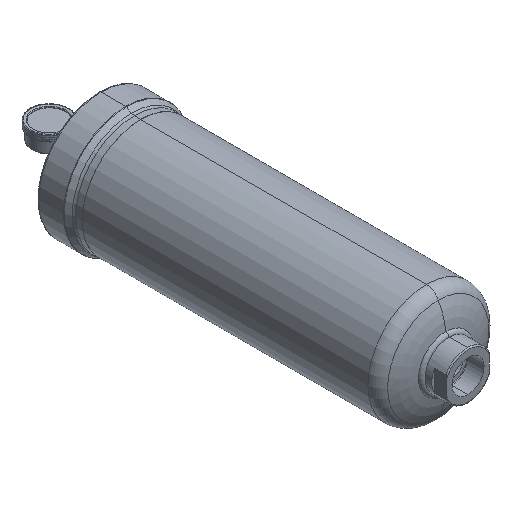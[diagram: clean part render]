
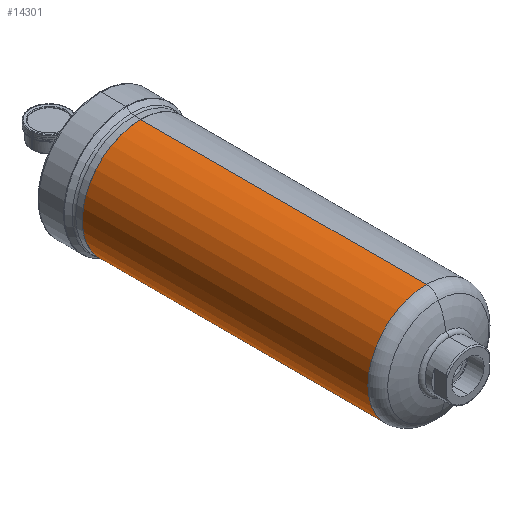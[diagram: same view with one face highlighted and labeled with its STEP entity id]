
A CAD part, isometric view. The second image highlights one B-rep face of the part: STEP entity #14301.
In plain terms, the highlighted cylindrical face has radius 103 mm (diameter 206 mm), a partial arc.
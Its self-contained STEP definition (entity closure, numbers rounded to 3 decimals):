
#279 = EDGE_CURVE ( 'NONE', #6652, #2298, #1398, .T. ) ;
#1146 = EDGE_CURVE ( 'NONE', #4650, #13753, #11363, .T. ) ;
#1398 = LINE ( 'NONE', #14226, #12838 ) ;
#1965 = CIRCLE ( 'NONE', #5887, 103. ) ;
#2197 = CARTESIAN_POINT ( 'NONE',  ( 90.65, -306.785, 355.429 ) ) ;
#2298 = VERTEX_POINT ( 'NONE', #18392 ) ;
#3909 = ORIENTED_EDGE ( 'NONE', *, *, #18421, .F. ) ;
#4228 = ORIENTED_EDGE ( 'NONE', *, *, #1146, .F. ) ;
#4307 = DIRECTION ( 'NONE',  ( 0., -1., 0. ) ) ;
#4650 = VERTEX_POINT ( 'NONE', #14632 ) ;
#5026 = DIRECTION ( 'NONE',  ( 0., -1., 0. ) ) ;
#5887 = AXIS2_PLACEMENT_3D ( 'NONE', #18373, #16624, #8880 ) ;
#6652 = VERTEX_POINT ( 'NONE', #18824 ) ;
#8423 = VECTOR ( 'NONE', #4307, 1000. ) ;
#8455 = CARTESIAN_POINT ( 'NONE',  ( 90.65, 232.715, 355.429 ) ) ;
#8880 = DIRECTION ( 'NONE',  ( 0., 0., -1. ) ) ;
#9731 = DIRECTION ( 'NONE',  ( 0., -1., 0. ) ) ;
#10583 = DIRECTION ( 'NONE',  ( 0., 0., 1. ) ) ;
#11201 = EDGE_LOOP ( 'NONE', ( #4228, #18945, #17883, #3909 ) ) ;
#11363 = LINE ( 'NONE', #21260, #8423 ) ;
#12082 = FACE_OUTER_BOUND ( 'NONE', #11201, .T. ) ;
#12379 = CIRCLE ( 'NONE', #15857, 103. ) ;
#12838 = VECTOR ( 'NONE', #21891, 1000. ) ;
#13753 = VERTEX_POINT ( 'NONE', #24286 ) ;
#14226 = CARTESIAN_POINT ( 'NONE',  ( 90.65, -306.785, 252.429 ) ) ;
#14301 = ADVANCED_FACE ( 'NONE', ( #12082 ), #22821, .T. ) ;
#14632 = CARTESIAN_POINT ( 'NONE',  ( 90.65, 232.715, 458.429 ) ) ;
#15857 = AXIS2_PLACEMENT_3D ( 'NONE', #8455, #5026, #10583 ) ;
#16624 = DIRECTION ( 'NONE',  ( 0., -1., 0. ) ) ;
#17233 = DIRECTION ( 'NONE',  ( 0., 0., -1. ) ) ;
#17883 = ORIENTED_EDGE ( 'NONE', *, *, #279, .T. ) ;
#18373 = CARTESIAN_POINT ( 'NONE',  ( 90.65, -271.825, 355.429 ) ) ;
#18392 = CARTESIAN_POINT ( 'NONE',  ( 90.65, -271.825, 252.429 ) ) ;
#18421 = EDGE_CURVE ( 'NONE', #13753, #2298, #1965, .T. ) ;
#18824 = CARTESIAN_POINT ( 'NONE',  ( 90.65, 232.715, 252.429 ) ) ;
#18945 = ORIENTED_EDGE ( 'NONE', *, *, #20982, .T. ) ;
#20982 = EDGE_CURVE ( 'NONE', #4650, #6652, #12379, .T. ) ;
#21260 = CARTESIAN_POINT ( 'NONE',  ( 90.65, -306.785, 458.429 ) ) ;
#21891 = DIRECTION ( 'NONE',  ( 0., -1., 0. ) ) ;
#22097 = AXIS2_PLACEMENT_3D ( 'NONE', #2197, #9731, #17233 ) ;
#22821 = CYLINDRICAL_SURFACE ( 'NONE', #22097, 103. ) ;
#24286 = CARTESIAN_POINT ( 'NONE',  ( 90.65, -271.825, 458.429 ) ) ;
